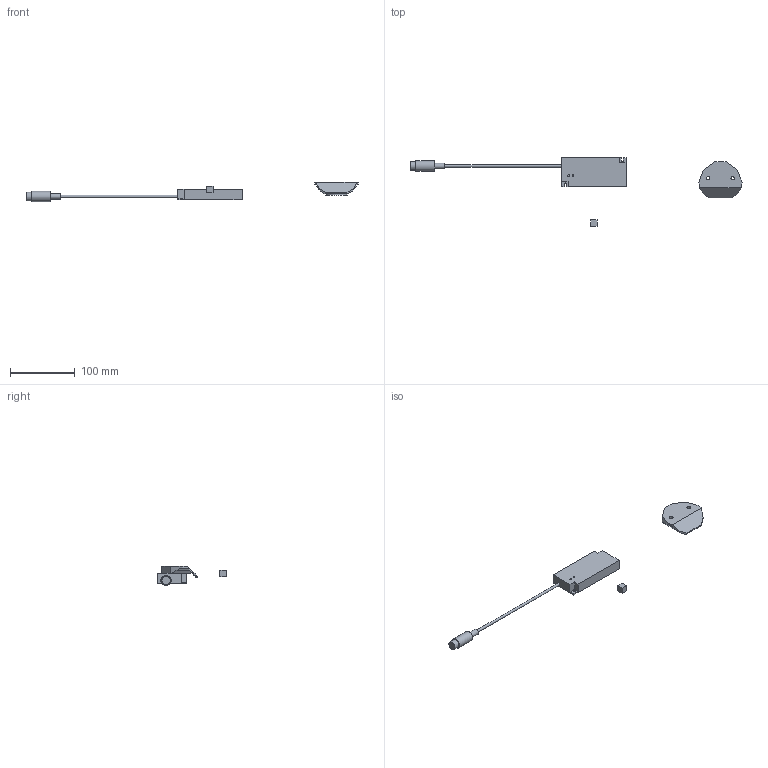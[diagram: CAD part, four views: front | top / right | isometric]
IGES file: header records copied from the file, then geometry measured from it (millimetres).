
Start section: Data from Parasolid IGES Translator 20.0.26, Copyright(c) 2006 Siemens P LM Software. All Rights Reserved.
Global section: file name: 9258029.igs; native system: By Siemens PLM Incorporated; preprocessor: XPlus GENERIC/IGES 20.0.26; author: Noname; organization: Noname; date: 20210409.185154; units: millimetre
Bounding box: 514.75 x 106.5 x 29.96 mm (x, y, z)
Surface area: 28104.9 mm2 (no closed solid volume)
Topology: 0 solids, 0 shells, 68 faces, 336 edges, 321 vertices
Faces by surface type: extrusion 55, revolution 13
